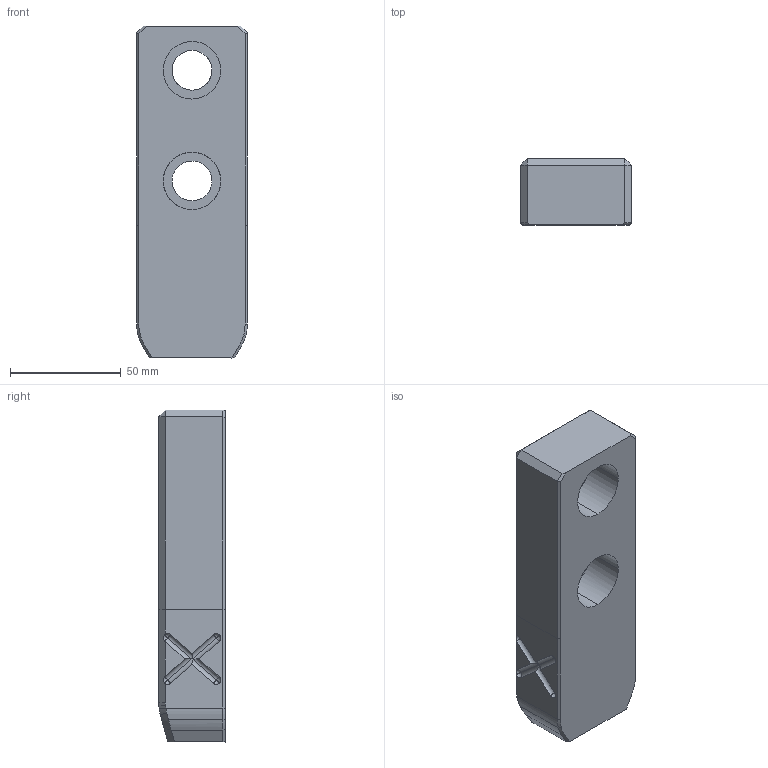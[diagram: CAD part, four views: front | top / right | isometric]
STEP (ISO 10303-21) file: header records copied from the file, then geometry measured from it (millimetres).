
FILE_DESCRIPTION(('CATIA V5 STEP Exchange'),'2;1');
FILE_NAME('D:\temp\color-modify-100929\GWB_6644-6654_R00\3d_gwb50-60-150_6644_r00.stp','2010-09-29T05:18:06+00:00',('none'),('none'),'CATIA Version 5 Release 18 SP 5 (IN-10)','CATIA V5 STEP AP214','none');
FILE_SCHEMA(('AUTOMOTIVE_DESIGN { 1 0 10303 214 1 1 1 1 }'));
Length unit declared in the file: millimetre
Products named in the file (1): GWB50-60-150
Bounding box: 50 x 30 x 150 mm (x, y, z)
Volume: 189948.8 mm3; surface area: 30345.9 mm2
Topology: 1 solids, 1 shells, 122 faces, 314 edges, 182 vertices
Faces by surface type: cylinder 50, plane 36, revolution 24, cone 8, bspline 4
Entity records: 4445 total; most frequent: CARTESIAN_POINT 1822, ORIENTED_EDGE 596, DIRECTION 393, EDGE_CURVE 298, VERTEX_POINT 182, B_SPLINE_CURVE_WITH_KNOTS 141, VECTOR 140, LINE 140
